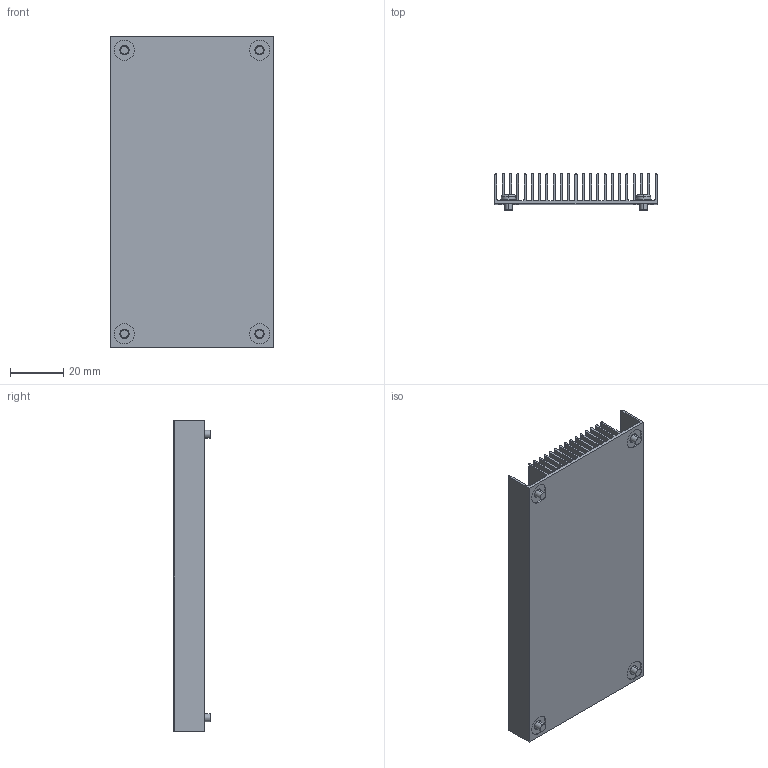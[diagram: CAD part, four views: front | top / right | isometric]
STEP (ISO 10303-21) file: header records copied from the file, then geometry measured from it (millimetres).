
FILE_DESCRIPTION (( 'STEP AP214' ), '1' );
FILE_NAME ('HS1592EBK04.STEP', '2023-03-03T19:11:00', ( '' ), ( '' ), 'SwSTEP 2.0', 'SolidWorks 2020', '' );
FILE_SCHEMA (( 'AUTOMOTIVE_DESIGN' ));
Length unit declared in the file: millimetre
Products named in the file (1): HS1592EBK04
Bounding box: 60.96 x 13.65 x 116.84 mm (x, y, z)
Volume: 29141.1 mm3; surface area: 66400.6 mm2
Topology: 5 solids, 5 shells, 574 faces, 1518 edges, 966 vertices
Faces by surface type: plane 401, cylinder 165, torus 8
Entity records: 24237 total; most frequent: CARTESIAN_POINT 3354, DIRECTION 3037, ORIENTED_EDGE 3036, EDGE_CURVE 1518, LINE 1099, VECTOR 1099, AXIS2_PLACEMENT_3D 969, VERTEX_POINT 966
